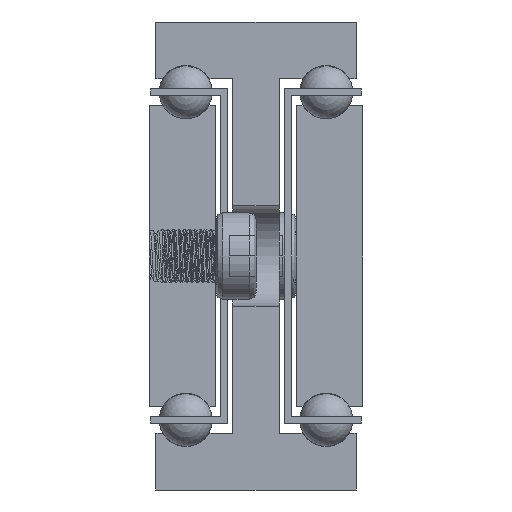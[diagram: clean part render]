
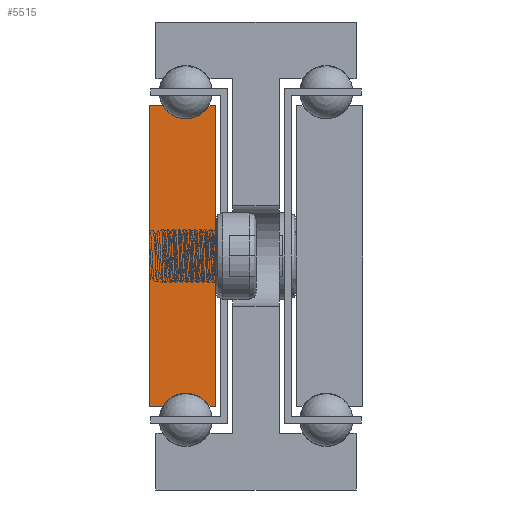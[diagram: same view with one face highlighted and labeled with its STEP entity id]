
A CAD part, front view. The second image highlights one B-rep face of the part: STEP entity #5515.
In plain terms, the highlighted planar face has unit normal (0, -1, 0).
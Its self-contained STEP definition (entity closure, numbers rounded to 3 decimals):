
#845=CIRCLE('',#5903,4.);
#847=CIRCLE('',#5909,4.);
#1249=FACE_OUTER_BOUND('',#1605,.T.);
#1605=EDGE_LOOP('',(#4358,#4359,#4360,#4361,#4362,#4363,#4364,#4365));
#2124=LINE('',#95102,#2336);
#2127=LINE('',#95108,#2339);
#2131=LINE('',#95120,#2343);
#2134=LINE('',#95126,#2346);
#2137=LINE('',#95132,#2349);
#2141=LINE('',#95142,#2353);
#2336=VECTOR('',#6562,1.);
#2339=VECTOR('',#6567,1.);
#2343=VECTOR('',#6579,1.);
#2346=VECTOR('',#6584,1.);
#2349=VECTOR('',#6589,1.);
#2353=VECTOR('',#6601,1.);
#2636=VERTEX_POINT('',#95099);
#2637=VERTEX_POINT('',#95101);
#2639=VERTEX_POINT('',#95107);
#2641=VERTEX_POINT('',#95113);
#2643=VERTEX_POINT('',#95119);
#2645=VERTEX_POINT('',#95125);
#2647=VERTEX_POINT('',#95131);
#2649=VERTEX_POINT('',#95137);
#3330=EDGE_CURVE('',#2637,#2636,#2124,.T.);
#3333=EDGE_CURVE('',#2639,#2637,#2127,.T.);
#3336=EDGE_CURVE('',#2641,#2639,#845,.T.);
#3339=EDGE_CURVE('',#2643,#2641,#2131,.T.);
#3342=EDGE_CURVE('',#2645,#2643,#2134,.T.);
#3345=EDGE_CURVE('',#2647,#2645,#2137,.T.);
#3348=EDGE_CURVE('',#2649,#2647,#847,.T.);
#3351=EDGE_CURVE('',#2636,#2649,#2141,.T.);
#4358=ORIENTED_EDGE('',*,*,#3351,.T.);
#4359=ORIENTED_EDGE('',*,*,#3348,.T.);
#4360=ORIENTED_EDGE('',*,*,#3345,.T.);
#4361=ORIENTED_EDGE('',*,*,#3342,.T.);
#4362=ORIENTED_EDGE('',*,*,#3339,.T.);
#4363=ORIENTED_EDGE('',*,*,#3336,.T.);
#4364=ORIENTED_EDGE('',*,*,#3333,.T.);
#4365=ORIENTED_EDGE('',*,*,#3330,.T.);
#5369=PLANE('',#5912);
#5515=ADVANCED_FACE('',(#1249),#5369,.T.);
#5903=AXIS2_PLACEMENT_3D('',#95114,#6573,#6574);
#5909=AXIS2_PLACEMENT_3D('',#95138,#6595,#6596);
#5912=AXIS2_PLACEMENT_3D('',#95144,#6604,#6605);
#6562=DIRECTION('',(0.,0.,-1.));
#6567=DIRECTION('',(-1.,0.,0.));
#6573=DIRECTION('center_axis',(0.,1.,0.));
#6574=DIRECTION('ref_axis',(-0.866,0.,-0.5));
#6579=DIRECTION('',(-1.,0.,0.));
#6584=DIRECTION('',(0.,0.,1.));
#6589=DIRECTION('',(1.,0.,0.));
#6595=DIRECTION('center_axis',(0.,1.,0.));
#6596=DIRECTION('ref_axis',(0.866,0.,0.5));
#6601=DIRECTION('',(1.,0.,0.));
#6604=DIRECTION('center_axis',(0.,-1.,0.));
#6605=DIRECTION('ref_axis',(1.,0.,0.));
#95099=CARTESIAN_POINT('',(-1668.534,-858.996,-57.5));
#95101=CARTESIAN_POINT('',(-1668.534,-858.996,-12.5));
#95102=CARTESIAN_POINT('',(-1668.534,-858.996,-57.5));
#95107=CARTESIAN_POINT('',(-1666.498,-858.996,-12.5));
#95108=CARTESIAN_POINT('',(-1668.534,-858.996,-12.5));
#95113=CARTESIAN_POINT('',(-1659.57,-858.996,-12.5));
#95114=CARTESIAN_POINT('Origin',(-1663.034,-858.996,-10.5));
#95119=CARTESIAN_POINT('',(-1658.534,-858.996,-12.5));
#95120=CARTESIAN_POINT('',(-1659.57,-858.996,-12.5));
#95125=CARTESIAN_POINT('',(-1658.534,-858.996,-57.5));
#95126=CARTESIAN_POINT('',(-1658.534,-858.996,-12.5));
#95131=CARTESIAN_POINT('',(-1659.57,-858.996,-57.5));
#95132=CARTESIAN_POINT('',(-1658.534,-858.996,-57.5));
#95137=CARTESIAN_POINT('',(-1666.498,-858.996,-57.5));
#95138=CARTESIAN_POINT('Origin',(-1663.034,-858.996,-59.5));
#95142=CARTESIAN_POINT('',(-1666.498,-858.996,-57.5));
#95144=CARTESIAN_POINT('Origin',(-1663.54,-858.996,-35.));
